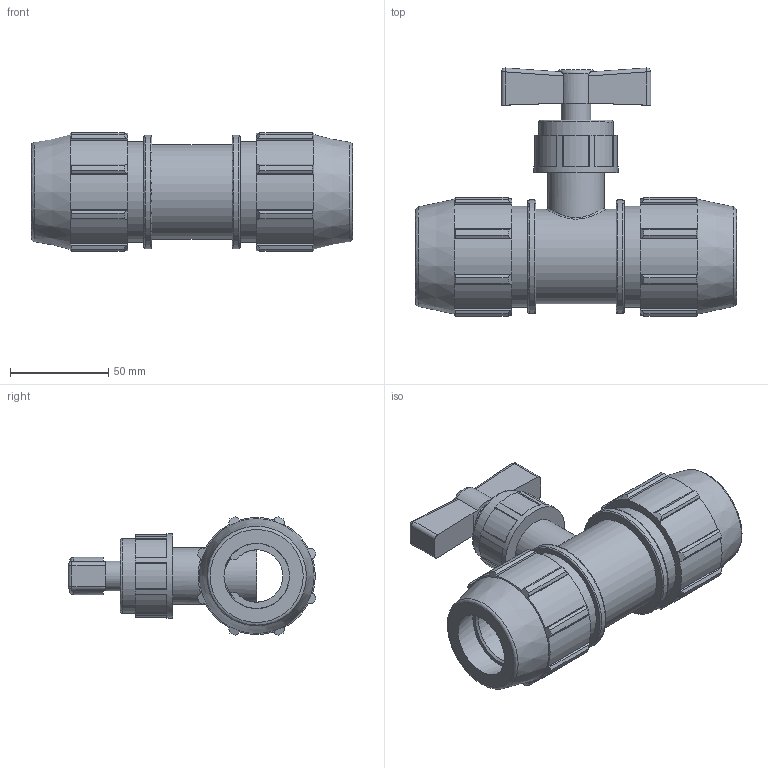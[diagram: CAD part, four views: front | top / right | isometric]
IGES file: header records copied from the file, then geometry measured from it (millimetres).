
Global section: file name: 0340M010.ipt; native system: Autodesk Inventor 2019; preprocessor: unknown; author: KIM; date: 20210826.124257; units: inch
Bounding box: 163.07 x 125.96 x 60.23 mm (x, y, z)
Volume: 323212.1 mm3; surface area: 66552.1 mm2
Topology: 1 solids, 1 shells, 235 faces, 662 edges, 441 vertices
Faces by surface type: plane 132, cylinder 63, cone 20, revolution 15, sphere 4, bspline 1
Full cylindrical faces by diameter (mm): 15.199 x1, 28.499 x1, 37.998 x1, 42.748 x1, 48.006 x1, 51.206 x2, 57.607 x2
